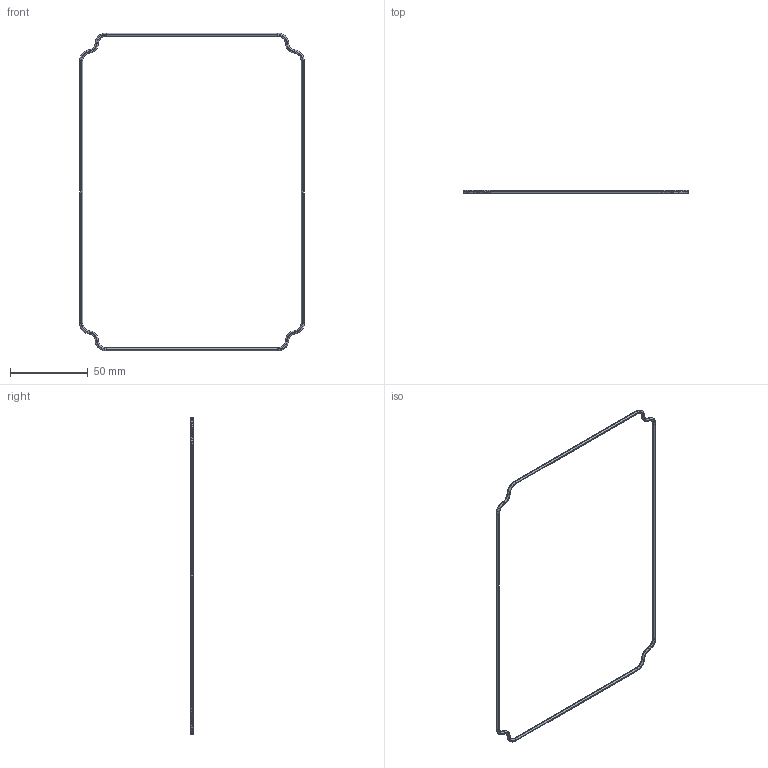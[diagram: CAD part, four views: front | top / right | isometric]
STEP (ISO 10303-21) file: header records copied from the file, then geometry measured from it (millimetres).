
FILE_DESCRIPTION((''),'2;1');
FILE_NAME('BOX200X140X90-JUNTA','2022-09-13T10:46:08',('pc'),(''),'CREO PARAMETRIC BY PTC INC, 2018100','CREO PARAMETRIC BY PTC INC, 2018100','');
FILE_SCHEMA(('CONFIG_CONTROL_DESIGN'));
Length unit declared in the file: millimetre
Products named in the file (1): BOX200X140X90-JUNTA
Bounding box: 144.2 x 1.8 x 204.08 mm (x, y, z)
Volume: 2020.7 mm3; surface area: 4114.6 mm2
Topology: 1 solids, 1 shells, 98 faces, 224 edges, 128 vertices
Faces by surface type: bspline 72, cylinder 16, plane 10
Entity records: 7976 total; most frequent: CARTESIAN_POINT 6172, ORIENTED_EDGE 448, DIRECTION 236, EDGE_CURVE 224, VERTEX_POINT 128, EDGE_LOOP 100, B_SPLINE_CURVE_WITH_KNOTS 100, FACE_OUTER_BOUND 98
